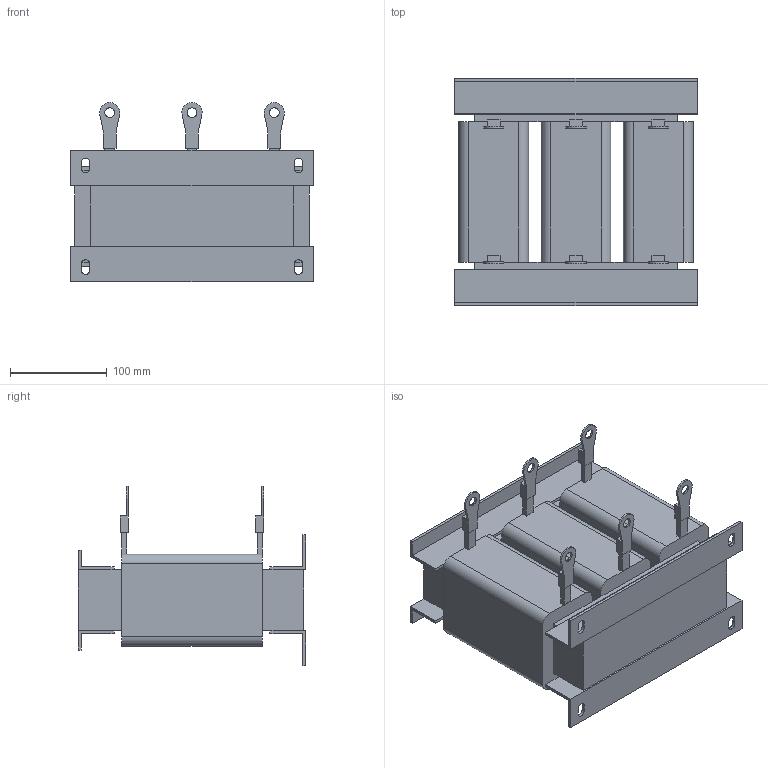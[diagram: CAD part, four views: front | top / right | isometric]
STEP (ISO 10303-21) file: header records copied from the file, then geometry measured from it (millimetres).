
FILE_DESCRIPTION(/* description */ (''),/* implementation_level */ '2;1');
FILE_NAME(/* name */ 'ACO-C-0121-T6.stp',/* time_stamp */ '2025-01-15T07:51:50+04:00',/* author */ ('Александр (огранич)'),/* organization */ (''),/* preprocessor_version */ 'ST-DEVELOPER v19.2',/* originating_system */ 'Autodesk Inventor 2024',/* authorisation */ '');
FILE_SCHEMA (('AUTOMOTIVE_DESIGN { 1 0 10303 214 3 1 1 }'));
Length unit declared in the file: millimetre
Products named in the file (1): ACO-0015-T4-4
Bounding box: 250 x 235 x 184.96 mm (x, y, z)
Volume: 4310176.3 mm3; surface area: 351313.3 mm2
Topology: 15 solids, 15 shells, 196 faces, 478 edges, 308 vertices
Faces by surface type: plane 164, cylinder 32
Full cylindrical faces by diameter (mm): 10 x6
Entity records: 5727 total; most frequent: CARTESIAN_POINT 983, ORIENTED_EDGE 956, DIRECTION 936, EDGE_CURVE 478, LINE 414, VECTOR 414, VERTEX_POINT 308, AXIS2_PLACEMENT_3D 261
